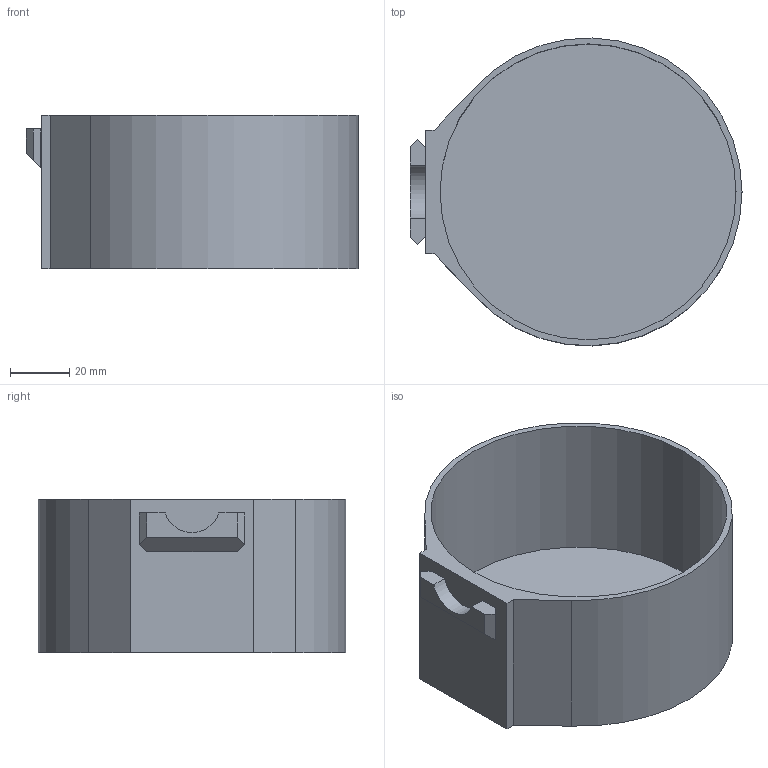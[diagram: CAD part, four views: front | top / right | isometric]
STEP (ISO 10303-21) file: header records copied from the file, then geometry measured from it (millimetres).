
FILE_DESCRIPTION(/* description */ ('','CAx-IF Rec.Pracs.---Representation and Presentation of Product Manufacturing Information (PMI)---4.0---2014-10-13'),/* implementation_level */ '2;1');
FILE_NAME(/* name */ 'Goews Single 1x Hanging Cup 100mm D x 50mm H.step',/* time_stamp */ '2024-12-16T19:16:44-05:00',/* author */ (''),/* organization */ (''),/* preprocessor_version */ 'ST-DEVELOPER v20',/* originating_system */ 'Autodesk Translation Framework v13.20.0.188',/* authorisation */ '');
FILE_SCHEMA (('AP242_MANAGED_MODEL_BASED_3D_ENGINEERING_MIM_LF { 1 0 10303 442 1 1 4 }'));
Length unit declared in the file: millimetre
Products named in the file (1): Goews Single 1x Hanging Cup parametric
Bounding box: 112.15 x 103.97 x 52 mm (x, y, z)
Volume: 62358.4 mm3; surface area: 51111 mm2
Topology: 1 solids, 1 shells, 22 faces, 52 edges, 34 vertices
Faces by surface type: plane 19, cylinder 3
Full cylindrical faces by diameter (mm): 100 x1
Entity records: 659 total; most frequent: CARTESIAN_POINT 109, ORIENTED_EDGE 104, DIRECTION 104, EDGE_CURVE 52, LINE 46, VECTOR 46, VERTEX_POINT 34, AXIS2_PLACEMENT_3D 29
